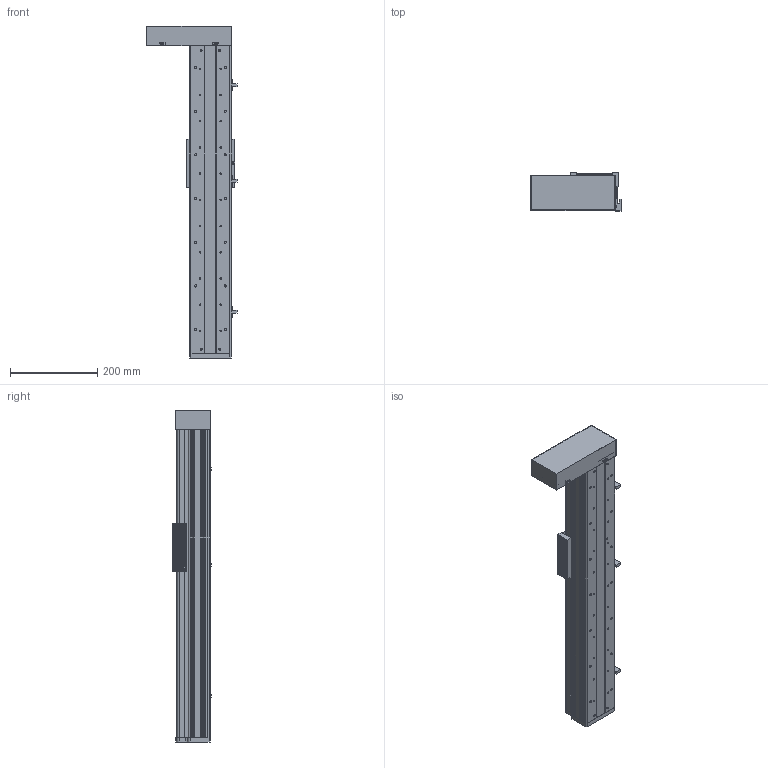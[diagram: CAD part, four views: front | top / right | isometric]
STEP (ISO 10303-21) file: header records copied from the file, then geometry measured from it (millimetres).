
FILE_DESCRIPTION (( 'STEP AP214' ), '1' );
FILE_NAME ('CF95B-C-500-FWL.STEP', '2020-01-15T08:45:44', ( '微软用户' ), ( '微软中国' ), 'SwSTEP 2.0', 'SolidWorks 2016', '' );
FILE_SCHEMA (( 'AUTOMOTIVE_DESIGN' ));
Length unit declared in the file: millimetre
Products named in the file (20): curved single coil spring lock washers gb_GB_FASTENER_WASHER_CSLW 4; 盓傅釱; CF95B嘐隅釱; CF95B裔啣-500; CF95B賑雄啣; CF95B蹟譫釱; EGH-15-CABZnew; EGR15-500; CF95B菁釱-500; 嫖萇羲壽; CF95B-C-500-FWL; 75-86-95癹弇羲壽覜茼え; 滅誘欶 殏俔; 酘殏萇儂啣; CF95B耜啣; hexagon socket head cap screws gb_GB_FASTENER_SCREWS_HSHCS M5X25-N; curved single coil spring lock washers gb_GB_FASTENER_WASHER_CSLW 5; hexagon socket head cap screws gb_GB_FASTENER_SCREWS_HSHCS M4X10-N; hexagon socket head cap screws gb_GB_FASTENER_SCREWS_HSHCS M4X25-N; plain washers--product grade c gb_GB_FASTENER_WASHER_SMWC 4
Assembly tree (51 placements, depth 2):
  CF95B-C-500-FWL
    CF95B菁釱-500
    EGR15-500  x2
    EGH-15-CABZnew  x2
    CF95B蹟譫釱
    CF95B賑雄啣
    CF95B裔啣-500
    CF95B嘐隅釱
    盓傅釱
    curved single coil spring lock washers gb_GB_FASTENER_WASHER_CSLW 4  x8
    plain washers--product grade c gb_GB_FASTENER_WASHER_SMWC 4  x4
    hexagon socket head cap screws gb_GB_FASTENER_SCREWS_HSHCS M4X25-N  x4
    hexagon socket head cap screws gb_GB_FASTENER_SCREWS_HSHCS M4X10-N  x4
    curved single coil spring lock washers gb_GB_FASTENER_WASHER_CSLW 5  x7
    hexagon socket head cap screws gb_GB_FASTENER_SCREWS_HSHCS M5X25-N  x7
    CF95B耜啣
    酘殏萇儂啣
    滅誘欶 殏俔
    75-86-95癹弇羲壽覜茼え
    嫖萇羲壽  x3
Bounding box: 206.6 x 88.05 x 760 mm (x, y, z)
Volume: 2363684.3 mm3; surface area: 932959.1 mm2
Topology: 49 solids, 75 shells, 4621 faces, 16252 edges, 11033 vertices
Faces by surface type: plane 2241, bspline 1174, cylinder 886, cone 178, torus 94, sphere 48
Entity records: 130675 total; most frequent: CARTESIAN_POINT 41811, ORIENTED_EDGE 15118, DIRECTION 12026, EDGE_CURVE 8683, VERTEX_POINT 5928, LINE 5064, VECTOR 5064, AXIS2_PLACEMENT_3D 3481
